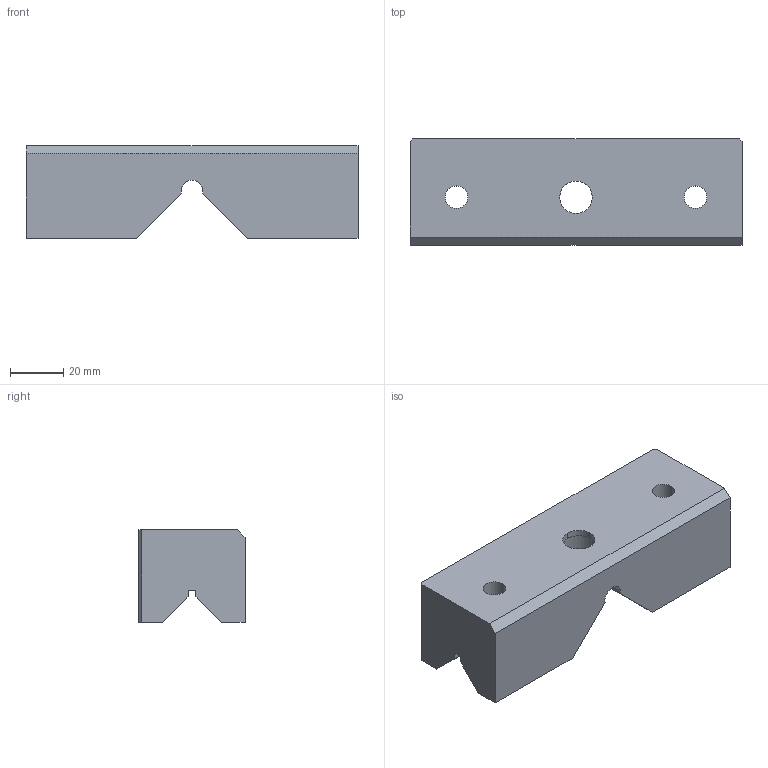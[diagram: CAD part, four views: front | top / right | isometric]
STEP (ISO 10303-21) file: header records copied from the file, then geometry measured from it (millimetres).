
FILE_DESCRIPTION((''),'2;1');
FILE_NAME('FG_VC_BASIC_C0029NP001','2026-02-23T17:13:54',('Admin'),(''),'CREO PARAMETRIC BY PTC INC, 2025010','CREO PARAMETRIC BY PTC INC, 2025010','');
FILE_SCHEMA(('CONFIG_CONTROL_DESIGN'));
Length unit declared in the file: millimetre
Products named in the file (1): FG_VC_BASIC_C0029NP001
Bounding box: 125 x 40 x 35 mm (x, y, z)
Volume: 134818.9 mm3; surface area: 24286.9 mm2
Topology: 1 solids, 1 shells, 49 faces, 139 edges, 92 vertices
Faces by surface type: plane 33, cylinder 16
Entity records: 1727 total; most frequent: CARTESIAN_POINT 402, ORIENTED_EDGE 278, DIRECTION 249, EDGE_CURVE 139, VECTOR 99, LINE 99, VERTEX_POINT 92, AXIS2_PLACEMENT_3D 75
